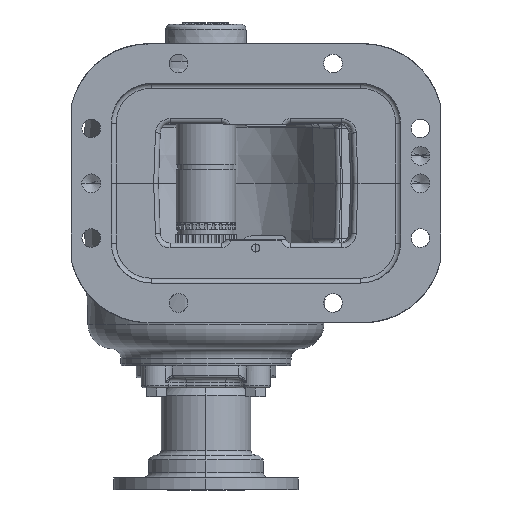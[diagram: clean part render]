
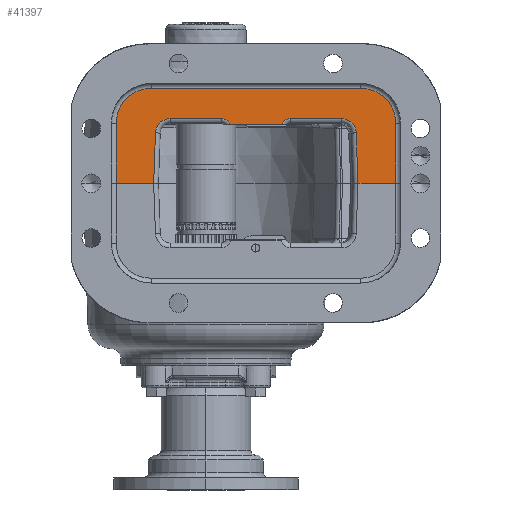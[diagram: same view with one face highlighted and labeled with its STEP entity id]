
A CAD part, front view. The second image highlights one B-rep face of the part: STEP entity #41397.
In plain terms, the highlighted planar face has unit normal (0, -1, 0).
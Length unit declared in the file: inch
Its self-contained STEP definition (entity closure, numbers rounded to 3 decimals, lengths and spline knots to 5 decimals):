
#1405 = CARTESIAN_POINT ( 'NONE',  ( -1.62, -4.3, -0.8962 ) ) ;
#1601 = LINE ( 'NONE', #53412, #46399 ) ;
#3032 = VERTEX_POINT ( 'NONE', #35292 ) ;
#10929 = DIRECTION ( 'NONE',  ( 0., -1., 0. ) ) ;
#11178 = VECTOR ( 'NONE', #69021, 39.37008 ) ;
#12103 = EDGE_CURVE ( 'NONE', #31308, #77602, #32888, .T. ) ;
#12367 = DIRECTION ( 'NONE',  ( 0., 0., -1. ) ) ;
#12786 = EDGE_CURVE ( 'NONE', #30225, #125212, #62704, .T. ) ;
#15434 = DIRECTION ( 'NONE',  ( 0., -1., 0. ) ) ;
#15443 = VERTEX_POINT ( 'NONE', #90709 ) ;
#15483 = ORIENTED_EDGE ( 'NONE', *, *, #18534, .F. ) ;
#15881 = ORIENTED_EDGE ( 'NONE', *, *, #66897, .F. ) ;
#16377 = CIRCLE ( 'NONE', #111400, 0.24 ) ;
#17227 = LINE ( 'NONE', #69062, #139581 ) ;
#17264 = CARTESIAN_POINT ( 'NONE',  ( -1.47, -4.3, 1.89503 ) ) ;
#18302 = CARTESIAN_POINT ( 'NONE',  ( -2.38, -4.3, 3.88 ) ) ;
#18534 = EDGE_CURVE ( 'NONE', #164579, #30225, #162452, .T. ) ;
#24262 = LINE ( 'NONE', #76094, #161909 ) ;
#24410 = EDGE_CURVE ( 'NONE', #156360, #51293, #1601, .T. ) ;
#24639 = VECTOR ( 'NONE', #56283, 39.37008 ) ;
#25165 = VERTEX_POINT ( 'NONE', #109084 ) ;
#25625 = CARTESIAN_POINT ( 'NONE',  ( -1.5, -4.3, 3.88 ) ) ;
#27335 = DIRECTION ( 'NONE',  ( 0., 0., -1. ) ) ;
#29209 = EDGE_CURVE ( 'NONE', #164579, #25165, #163295, .T. ) ;
#29251 = VERTEX_POINT ( 'NONE', #114822 ) ;
#30225 = VERTEX_POINT ( 'NONE', #141139 ) ;
#31308 = VERTEX_POINT ( 'NONE', #18302 ) ;
#31667 = DIRECTION ( 'NONE',  ( 0., 0., -1. ) ) ;
#32888 = CIRCLE ( 'NONE', #54588, 0.88 ) ;
#34519 = LINE ( 'NONE', #61672, #47308 ) ;
#35292 = CARTESIAN_POINT ( 'NONE',  ( 0., -4.3, -1.31007 ) ) ;
#37636 = ORIENTED_EDGE ( 'NONE', *, *, #81272, .F. ) ;
#37894 = CARTESIAN_POINT ( 'NONE',  ( -1.25, -4.3, -0.8962 ) ) ;
#39114 = ORIENTED_EDGE ( 'NONE', *, *, #141277, .F. ) ;
#41397 = ADVANCED_FACE ( 'NONE', ( #72541 ), #48674, .F. ) ;
#42413 = EDGE_CURVE ( 'NONE', #66524, #165959, #34519, .T. ) ;
#46399 = VECTOR ( 'NONE', #64496, 39.37008 ) ;
#46736 = ORIENTED_EDGE ( 'NONE', *, *, #24410, .F. ) ;
#46806 = LINE ( 'NONE', #98693, #58305 ) ;
#47308 = VECTOR ( 'NONE', #138173, 39.37008 ) ;
#48674 = PLANE ( 'NONE',  #90627 ) ;
#51293 = VERTEX_POINT ( 'NONE', #166694 ) ;
#53412 = CARTESIAN_POINT ( 'NONE',  ( -1.47, -4.3, -3.37 ) ) ;
#54259 = DIRECTION ( 'NONE',  ( 0., 0., -1. ) ) ;
#54588 = AXIS2_PLACEMENT_3D ( 'NONE', #25625, #77442, #129288 ) ;
#55485 = ORIENTED_EDGE ( 'NONE', *, *, #124942, .F. ) ;
#56283 = DIRECTION ( 'NONE',  ( -0.999, 0., -0.035 ) ) ;
#58114 = DIRECTION ( 'NONE',  ( 0., 1., 0. ) ) ;
#58305 = VECTOR ( 'NONE', #138553, 39.37008 ) ;
#60715 = CARTESIAN_POINT ( 'NONE',  ( 0., -4.3, -2.25 ) ) ;
#61672 = CARTESIAN_POINT ( 'NONE',  ( -1.5, -4.3, -2.25 ) ) ;
#62704 = CIRCLE ( 'NONE', #81784, 0.37 ) ;
#63058 = CIRCLE ( 'NONE', #152722, 0.24 ) ;
#63604 = VERTEX_POINT ( 'NONE', #1405 ) ;
#64496 = DIRECTION ( 'NONE',  ( 0., 0., -1. ) ) ;
#65933 = CARTESIAN_POINT ( 'NONE',  ( -2.38, -4.3, -1.37 ) ) ;
#66524 = VERTEX_POINT ( 'NONE', #60715 ) ;
#66897 = EDGE_CURVE ( 'NONE', #165959, #75280, #96995, .T. ) ;
#69009 = ORIENTED_EDGE ( 'NONE', *, *, #145685, .F. ) ;
#69021 = DIRECTION ( 'NONE',  ( 0., 0., 1. ) ) ;
#69062 = CARTESIAN_POINT ( 'NONE',  ( 0., -4.3, -3.37 ) ) ;
#70181 = CARTESIAN_POINT ( 'NONE',  ( -1.5, -4.3, -2.25 ) ) ;
#71698 = CARTESIAN_POINT ( 'NONE',  ( -3.5, -4.3, -3.37 ) ) ;
#72163 = DIRECTION ( 'NONE',  ( 0., 0., -1. ) ) ;
#72541 = FACE_OUTER_BOUND ( 'NONE', #81079, .T. ) ;
#75280 = VERTEX_POINT ( 'NONE', #65933 ) ;
#76094 = CARTESIAN_POINT ( 'NONE',  ( -1.62, -4.3, -0.8962 ) ) ;
#76234 = ORIENTED_EDGE ( 'NONE', *, *, #42413, .F. ) ;
#77048 = CARTESIAN_POINT ( 'NONE',  ( -1.62, -4.3, 3.3962 ) ) ;
#77442 = DIRECTION ( 'NONE',  ( 0., 1., 0. ) ) ;
#77602 = VERTEX_POINT ( 'NONE', #153534 ) ;
#81079 = EDGE_LOOP ( 'NONE', ( #46736, #117399, #39114, #115581, #15483, #95808, #55485, #132854, #85317, #15881, #76234, #132542, #100040, #69009, #113223, #37636 ) ) ;
#81272 = EDGE_CURVE ( 'NONE', #51293, #149259, #16377, .T. ) ;
#81508 = VECTOR ( 'NONE', #153754, 39.37008 ) ;
#81784 = AXIS2_PLACEMENT_3D ( 'NONE', #103877, #15434, #27335 ) ;
#85209 = DIRECTION ( 'NONE',  ( 0., 1., 0. ) ) ;
#85317 = ORIENTED_EDGE ( 'NONE', *, *, #124562, .F. ) ;
#86353 = LINE ( 'NONE', #163655, #96682 ) ;
#89314 = CARTESIAN_POINT ( 'NONE',  ( -1.62, -4.3, 0.38248 ) ) ;
#90627 = AXIS2_PLACEMENT_3D ( 'NONE', #71698, #58114, #99755 ) ;
#90709 = CARTESIAN_POINT ( 'NONE',  ( -1.62, -4.3, 2.11752 ) ) ;
#92242 = DIRECTION ( 'NONE',  ( 0., 0., -1. ) ) ;
#92514 = DIRECTION ( 'NONE',  ( 0., -1., 0. ) ) ;
#95808 = ORIENTED_EDGE ( 'NONE', *, *, #29209, .T. ) ;
#96682 = VECTOR ( 'NONE', #150060, 39.37008 ) ;
#96995 = CIRCLE ( 'NONE', #137709, 0.88 ) ;
#98693 = CARTESIAN_POINT ( 'NONE',  ( -1.62, -4.3, 2.11752 ) ) ;
#99267 = CARTESIAN_POINT ( 'NONE',  ( 0., -4.3, 4.76 ) ) ;
#99755 = DIRECTION ( 'NONE',  ( 0., 0., -1. ) ) ;
#100040 = ORIENTED_EDGE ( 'NONE', *, *, #156923, .F. ) ;
#101954 = LINE ( 'NONE', #129914, #81508 ) ;
#103877 = CARTESIAN_POINT ( 'NONE',  ( -1.25, -4.3, 3.3962 ) ) ;
#105033 = AXIS2_PLACEMENT_3D ( 'NONE', #37894, #153475, #92242 ) ;
#109084 = CARTESIAN_POINT ( 'NONE',  ( 0., -4.3, 4.76 ) ) ;
#111400 = AXIS2_PLACEMENT_3D ( 'NONE', #138412, #10929, #72163 ) ;
#113223 = ORIENTED_EDGE ( 'NONE', *, *, #144393, .F. ) ;
#114822 = CARTESIAN_POINT ( 'NONE',  ( -1.26291, -4.3, -1.26597 ) ) ;
#115581 = ORIENTED_EDGE ( 'NONE', *, *, #12786, .F. ) ;
#117399 = ORIENTED_EDGE ( 'NONE', *, *, #130802, .F. ) ;
#121279 = CIRCLE ( 'NONE', #105033, 0.37 ) ;
#124562 = EDGE_CURVE ( 'NONE', #75280, #31308, #101954, .T. ) ;
#124942 = EDGE_CURVE ( 'NONE', #77602, #25165, #135779, .T. ) ;
#125212 = VERTEX_POINT ( 'NONE', #77048 ) ;
#129288 = DIRECTION ( 'NONE',  ( 0., 0., -1. ) ) ;
#129914 = CARTESIAN_POINT ( 'NONE',  ( -2.38, -4.3, 3.88 ) ) ;
#130802 = EDGE_CURVE ( 'NONE', #15443, #156360, #63058, .T. ) ;
#132542 = ORIENTED_EDGE ( 'NONE', *, *, #139017, .T. ) ;
#132797 = DIRECTION ( 'NONE',  ( 0., 0., 1. ) ) ;
#132854 = ORIENTED_EDGE ( 'NONE', *, *, #12103, .F. ) ;
#133607 = CARTESIAN_POINT ( 'NONE',  ( 0., -4.3, -3.37 ) ) ;
#135325 = CARTESIAN_POINT ( 'NONE',  ( -1.5, -4.3, -1.37 ) ) ;
#135779 = LINE ( 'NONE', #99267, #165556 ) ;
#137709 = AXIS2_PLACEMENT_3D ( 'NONE', #135325, #85209, #31667 ) ;
#138173 = DIRECTION ( 'NONE',  ( -1., 0., 0. ) ) ;
#138412 = CARTESIAN_POINT ( 'NONE',  ( -1.38, -4.3, 0.38248 ) ) ;
#138553 = DIRECTION ( 'NONE',  ( 0., 0., -1. ) ) ;
#139017 = EDGE_CURVE ( 'NONE', #66524, #3032, #17227, .T. ) ;
#139581 = VECTOR ( 'NONE', #132797, 39.37008 ) ;
#141139 = CARTESIAN_POINT ( 'NONE',  ( -1.26291, -4.3, 3.76597 ) ) ;
#141277 = EDGE_CURVE ( 'NONE', #125212, #15443, #46806, .T. ) ;
#144393 = EDGE_CURVE ( 'NONE', #149259, #63604, #24262, .T. ) ;
#145685 = EDGE_CURVE ( 'NONE', #63604, #29251, #121279, .T. ) ;
#149259 = VERTEX_POINT ( 'NONE', #89314 ) ;
#149707 = CARTESIAN_POINT ( 'NONE',  ( -1.26291, -4.3, 3.76597 ) ) ;
#150060 = DIRECTION ( 'NONE',  ( 0.999, 0., -0.035 ) ) ;
#152722 = AXIS2_PLACEMENT_3D ( 'NONE', #155418, #92514, #54259 ) ;
#153475 = DIRECTION ( 'NONE',  ( 0., -1., 0. ) ) ;
#153534 = CARTESIAN_POINT ( 'NONE',  ( -1.5, -4.3, 4.76 ) ) ;
#153754 = DIRECTION ( 'NONE',  ( 0., 0., 1. ) ) ;
#155418 = CARTESIAN_POINT ( 'NONE',  ( -1.38, -4.3, 2.11752 ) ) ;
#156360 = VERTEX_POINT ( 'NONE', #17264 ) ;
#156923 = EDGE_CURVE ( 'NONE', #29251, #3032, #86353, .T. ) ;
#160263 = CARTESIAN_POINT ( 'NONE',  ( 0., -4.3, 3.81007 ) ) ;
#161909 = VECTOR ( 'NONE', #12367, 39.37008 ) ;
#162452 = LINE ( 'NONE', #149707, #24639 ) ;
#163295 = LINE ( 'NONE', #133607, #11178 ) ;
#163655 = CARTESIAN_POINT ( 'NONE',  ( -0.00419, -4.3, -1.30993 ) ) ;
#164579 = VERTEX_POINT ( 'NONE', #160263 ) ;
#164640 = DIRECTION ( 'NONE',  ( 1., 0., 0. ) ) ;
#165556 = VECTOR ( 'NONE', #164640, 39.37008 ) ;
#165959 = VERTEX_POINT ( 'NONE', #70181 ) ;
#166694 = CARTESIAN_POINT ( 'NONE',  ( -1.47, -4.3, 0.60497 ) ) ;
